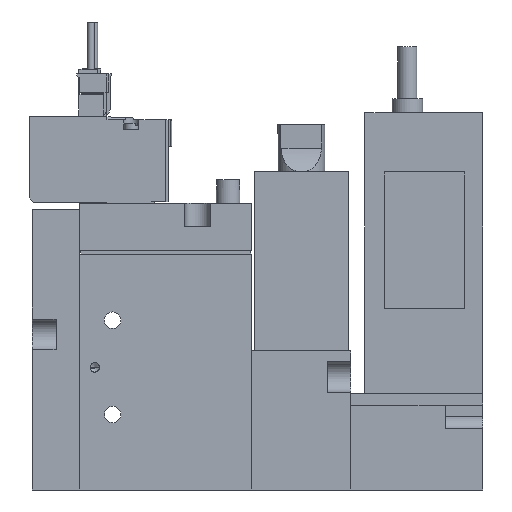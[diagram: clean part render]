
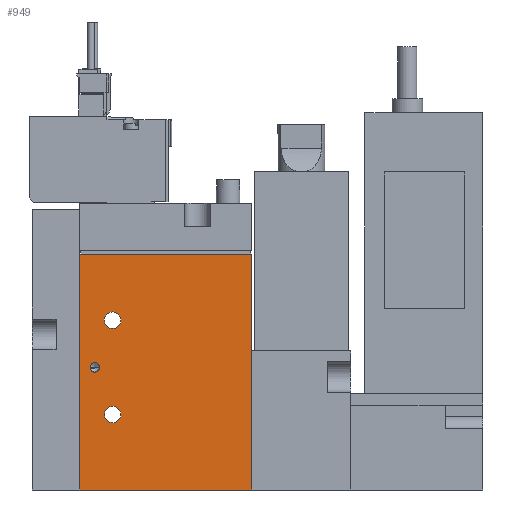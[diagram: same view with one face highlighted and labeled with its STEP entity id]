
A CAD part, left-side view. The second image highlights one B-rep face of the part: STEP entity #949.
In plain terms, the highlighted planar face has unit normal (-1, 0, 0) as drawn and (1, 0, 0) by its records, which use the part's own axes.
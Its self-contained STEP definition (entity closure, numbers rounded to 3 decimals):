
#949=ADVANCED_FACE('',(#1501,#1502,#1503,#1504),#1505,.F.);
#1501=FACE_BOUND('',#2422,.T.);
#1502=FACE_BOUND('',#2423,.T.);
#1503=FACE_BOUND('',#2424,.T.);
#1504=FACE_OUTER_BOUND('',#2425,.T.);
#1505=PLANE('',#2426);
#2422=EDGE_LOOP('',(#3822));
#2423=EDGE_LOOP('',(#3823));
#2424=EDGE_LOOP('',(#3824));
#2425=EDGE_LOOP('',(#3825,#3826,#3827,#3828));
#2426=AXIS2_PLACEMENT_3D('',#3829,#3830,#3831);
#3822=ORIENTED_EDGE('',*,*,#6470,.F.);
#3823=ORIENTED_EDGE('',*,*,#6471,.T.);
#3824=ORIENTED_EDGE('',*,*,#6472,.T.);
#3825=ORIENTED_EDGE('',*,*,#6473,.T.);
#3826=ORIENTED_EDGE('',*,*,#6474,.F.);
#3827=ORIENTED_EDGE('',*,*,#6475,.F.);
#3828=ORIENTED_EDGE('',*,*,#6476,.T.);
#3829=CARTESIAN_POINT('',(8.5,-19.444,50.0));
#3830=DIRECTION('',(-1.0,0.0,0.0));
#3831=DIRECTION('',(0.0,0.0,1.0));
#6470=EDGE_CURVE('',#7601,#7601,#7602,.T.);
#6471=EDGE_CURVE('',#7603,#7603,#7604,.T.);
#6472=EDGE_CURVE('',#7605,#7605,#7606,.T.);
#6473=EDGE_CURVE('',#7607,#7608,#7609,.T.);
#6474=EDGE_CURVE('',#7610,#7608,#7611,.T.);
#6475=EDGE_CURVE('',#7612,#7610,#7613,.T.);
#6476=EDGE_CURVE('',#7612,#7607,#7614,.T.);
#7601=VERTEX_POINT('',#9472);
#7602=CIRCLE('',#9473,1.0);
#7603=VERTEX_POINT('',#9474);
#7604=CIRCLE('',#9475,1.75);
#7605=VERTEX_POINT('',#9476);
#7606=CIRCLE('',#9477,1.75);
#7607=VERTEX_POINT('',#9478);
#7608=VERTEX_POINT('',#9479);
#7609=LINE('',#9480,#9481);
#7610=VERTEX_POINT('',#9482);
#7611=LINE('',#9483,#9484);
#7612=VERTEX_POINT('',#9485);
#7613=LINE('',#9486,#9487);
#7614=LINE('',#9488,#9489);
#9472=CARTESIAN_POINT('',(8.5,-17.244,26.0));
#9473=AXIS2_PLACEMENT_3D('',#11723,#11724,#11725);
#9474=CARTESIAN_POINT('',(8.5,-10.694,36.0));
#9475=AXIS2_PLACEMENT_3D('',#11726,#11727,#11728);
#9476=CARTESIAN_POINT('',(8.5,-10.694,16.0));
#9477=AXIS2_PLACEMENT_3D('',#11729,#11730,#11731);
#9478=CARTESIAN_POINT('',(8.5,-19.444,0.0));
#9479=CARTESIAN_POINT('',(8.5,17.056,0.0));
#9480=CARTESIAN_POINT('',(8.5,-19.444,0.0));
#9481=VECTOR('',#11732,1.0);
#9482=CARTESIAN_POINT('',(8.5,17.056,50.0));
#9483=CARTESIAN_POINT('',(8.5,17.056,50.0));
#9484=VECTOR('',#11733,1.0);
#9485=CARTESIAN_POINT('',(8.5,-19.444,50.0));
#9486=CARTESIAN_POINT('',(8.5,-19.444,50.0));
#9487=VECTOR('',#11734,1.0);
#9488=CARTESIAN_POINT('',(8.5,-19.444,50.0));
#9489=VECTOR('',#11735,1.0);
#11723=CARTESIAN_POINT('',(8.5,-16.244,26.0));
#11724=DIRECTION('',(1.0,0.,0.0));
#11725=DIRECTION('',(0.,-1.0,0.0));
#11726=CARTESIAN_POINT('',(8.5,-12.444,36.0));
#11727=DIRECTION('',(-1.0,0.0,0.0));
#11728=DIRECTION('',(0.0,1.0,0.0));
#11729=CARTESIAN_POINT('',(8.5,-12.444,16.0));
#11730=DIRECTION('',(-1.0,0.0,0.0));
#11731=DIRECTION('',(0.0,1.0,0.0));
#11732=DIRECTION('',(0.0,1.0,0.0));
#11733=DIRECTION('',(0.0,0.0,-1.0));
#11734=DIRECTION('',(0.0,1.0,0.0));
#11735=DIRECTION('',(0.0,0.0,-1.0));
